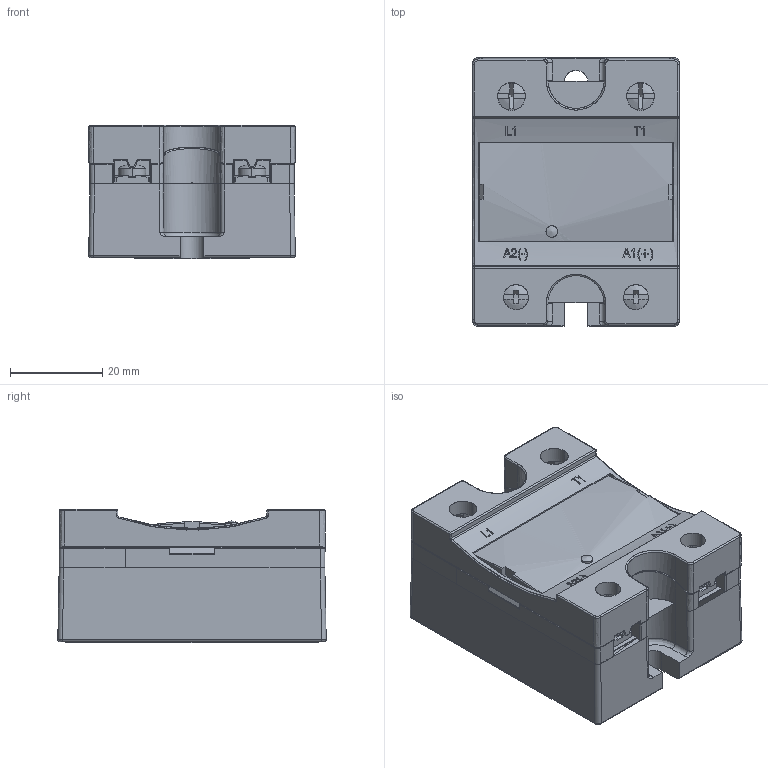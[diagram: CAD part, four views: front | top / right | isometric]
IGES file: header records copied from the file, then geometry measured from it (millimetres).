
Bounding box: 44.8 x 58.18 x 28.9 mm (x, y, z)
Surface area: 17025.6 mm2 (no closed solid volume)
Topology: 0 solids, 0 shells, 1010 faces, 5884 edges, 5878 vertices
Faces by surface type: bspline 1010
